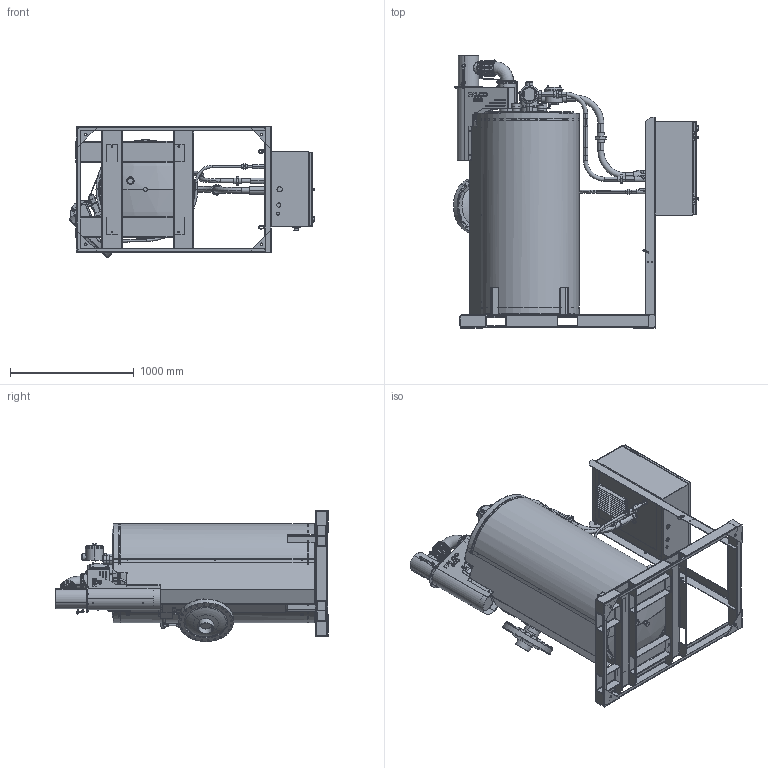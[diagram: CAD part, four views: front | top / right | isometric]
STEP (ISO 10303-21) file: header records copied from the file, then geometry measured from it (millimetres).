
FILE_DESCRIPTION (( 'STEP AP203' ), '1' );
FILE_NAME ('f600-assy.STEP', '2018-02-23T15:10:18', ( 'user' ), ( '' ), 'SwSTEP 2.0', 'SolidWorks 2011', '' );
FILE_SCHEMA (( 'CONFIG_CONTROL_DESIGN' ));
Length unit declared in the file: inch
Products named in the file (1): f600-assy
Bounding box: 1983.4 x 2207.15 x 1062.49 mm (x, y, z)
Surface area: 27515129.3 mm2 (no closed solid volume)
Topology: 0 solids, 407 shells, 1896 faces, 8659 edges, 6863 vertices
Faces by surface type: plane 893, cylinder 733, torus 139, cone 81, bspline 38, sphere 12
Entity records: 101402 total; most frequent: CARTESIAN_POINT 32698, DIRECTION 14381, ORIENTED_EDGE 11556, EDGE_CURVE 8647, VERTEX_POINT 6859, AXIS2_PLACEMENT_3D 5016, VECTOR 4349, LINE 4349
